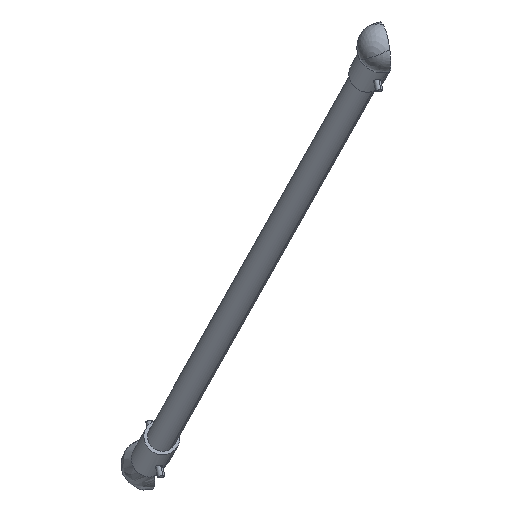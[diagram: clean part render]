
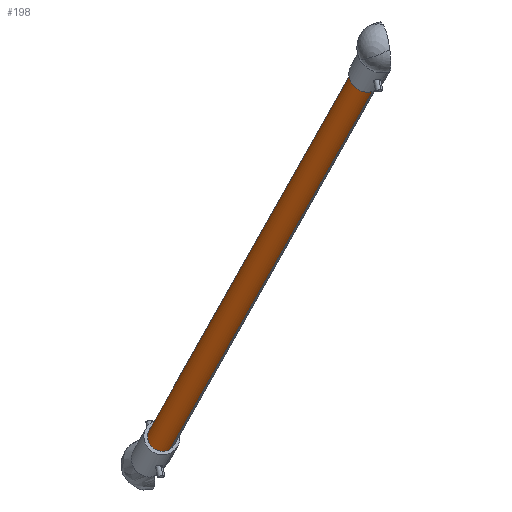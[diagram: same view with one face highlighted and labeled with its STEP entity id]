
A CAD part, isometric view. The second image highlights one B-rep face of the part: STEP entity #198.
In plain terms, the highlighted cylindrical face has radius 8 mm (diameter 16 mm), a partial arc.
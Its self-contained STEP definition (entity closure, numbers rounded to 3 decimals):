
#97 = AXIS2_PLACEMENT_3D ( 'NONE', #682, #400, #672 ) ;
#129 = DIRECTION ( 'NONE',  ( 0.314, 0.543, -0.779 ) ) ;
#134 = CYLINDRICAL_SURFACE ( 'NONE', #618, 8. ) ;
#154 = ORIENTED_EDGE ( 'NONE', *, *, #1129, .T. ) ;
#181 = CIRCLE ( 'NONE', #710, 8. ) ;
#198 = ADVANCED_FACE ( 'NONE', ( #788 ), #134, .T. ) ;
#227 = CARTESIAN_POINT ( 'NONE',  ( -84.775, -38.107, -852.543 ) ) ;
#373 = EDGE_LOOP ( 'NONE', ( #1057, #154, #1095, #957 ) ) ;
#374 = VECTOR ( 'NONE', #129, 1000. ) ;
#400 = DIRECTION ( 'NONE',  ( 0.314, 0.543, -0.779 ) ) ;
#492 = DIRECTION ( 'NONE',  ( -0.314, -0.543, 0.779 ) ) ;
#532 = DIRECTION ( 'NONE',  ( -0.004, 0.821, 0.571 ) ) ;
#618 = AXIS2_PLACEMENT_3D ( 'NONE', #1311, #1190, #532 ) ;
#624 = EDGE_CURVE ( 'NONE', #1471, #1261, #1501, .T. ) ;
#672 = DIRECTION ( 'NONE',  ( -0.004, 0.821, 0.571 ) ) ;
#675 = VERTEX_POINT ( 'NONE', #1388 ) ;
#682 = CARTESIAN_POINT ( 'NONE',  ( -303.211, -421.975, -315.869 ) ) ;
#710 = AXIS2_PLACEMENT_3D ( 'NONE', #908, #492, #1160 ) ;
#788 = FACE_OUTER_BOUND ( 'NONE', #373, .T. ) ;
#908 = CARTESIAN_POINT ( 'NONE',  ( -84.744, -44.676, -857.11 ) ) ;
#957 = ORIENTED_EDGE ( 'NONE', *, *, #1236, .T. ) ;
#1057 = ORIENTED_EDGE ( 'NONE', *, *, #1107, .F. ) ;
#1095 = ORIENTED_EDGE ( 'NONE', *, *, #624, .T. ) ;
#1107 = EDGE_CURVE ( 'NONE', #675, #1197, #1569, .T. ) ;
#1129 = EDGE_CURVE ( 'NONE', #675, #1471, #1231, .T. ) ;
#1130 = CARTESIAN_POINT ( 'NONE',  ( -309.215, -425.721, -296.506 ) ) ;
#1160 = DIRECTION ( 'NONE',  ( -0.004, 0.821, 0.571 ) ) ;
#1175 = CARTESIAN_POINT ( 'NONE',  ( -309.153, -438.858, -305.639 ) ) ;
#1190 = DIRECTION ( 'NONE',  ( 0.314, 0.543, -0.779 ) ) ;
#1197 = VERTEX_POINT ( 'NONE', #1269 ) ;
#1231 = CIRCLE ( 'NONE', #97, 8. ) ;
#1236 = EDGE_CURVE ( 'NONE', #1261, #1197, #181, .T. ) ;
#1261 = VERTEX_POINT ( 'NONE', #227 ) ;
#1269 = CARTESIAN_POINT ( 'NONE',  ( -84.713, -51.244, -861.677 ) ) ;
#1300 = VECTOR ( 'NONE', #1627, 1000. ) ;
#1311 = CARTESIAN_POINT ( 'NONE',  ( -309.184, -432.29, -301.072 ) ) ;
#1344 = CARTESIAN_POINT ( 'NONE',  ( -303.242, -415.406, -311.302 ) ) ;
#1388 = CARTESIAN_POINT ( 'NONE',  ( -303.181, -428.544, -320.435 ) ) ;
#1471 = VERTEX_POINT ( 'NONE', #1344 ) ;
#1501 = LINE ( 'NONE', #1130, #1300 ) ;
#1569 = LINE ( 'NONE', #1175, #374 ) ;
#1627 = DIRECTION ( 'NONE',  ( 0.314, 0.543, -0.779 ) ) ;
